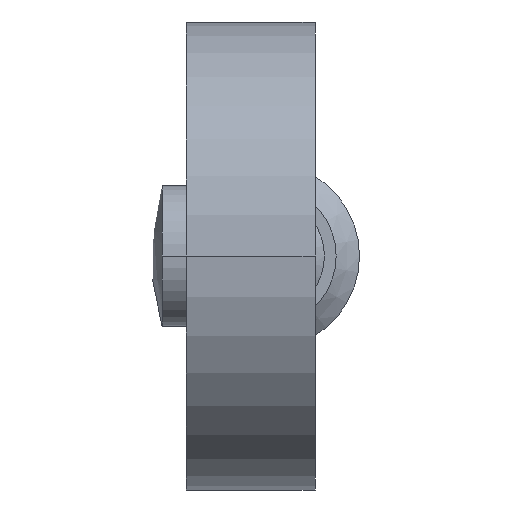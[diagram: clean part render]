
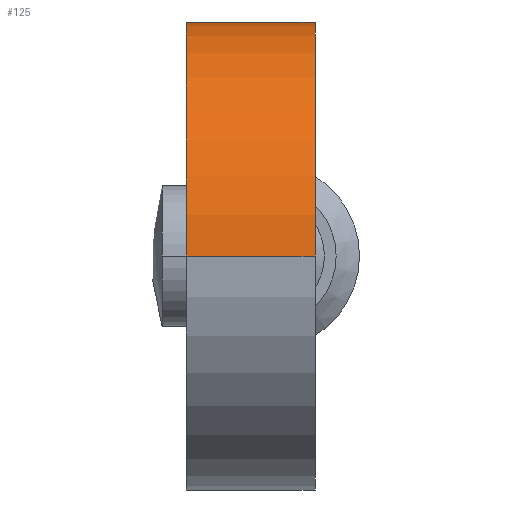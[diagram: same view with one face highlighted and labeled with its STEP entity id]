
A CAD part, left-side view. The second image highlights one B-rep face of the part: STEP entity #125.
In plain terms, the highlighted cylindrical face has radius 10 mm (diameter 20 mm), a partial arc.
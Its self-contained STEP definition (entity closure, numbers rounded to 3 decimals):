
#125=ADVANCED_FACE('',(#175),#176,.T.);
#175=FACE_OUTER_BOUND('',#277,.T.);
#176=CYLINDRICAL_SURFACE('',#278,10.0);
#277=EDGE_LOOP('',(#389,#390,#391,#392,#393,#394,#395));
#278=AXIS2_PLACEMENT_3D('',#396,#397,#398);
#389=ORIENTED_EDGE('',*,*,#724,.F.);
#390=ORIENTED_EDGE('',*,*,#725,.T.);
#391=ORIENTED_EDGE('',*,*,#726,.F.);
#392=ORIENTED_EDGE('',*,*,#727,.F.);
#393=ORIENTED_EDGE('',*,*,#728,.F.);
#394=ORIENTED_EDGE('',*,*,#729,.F.);
#395=ORIENTED_EDGE('',*,*,#730,.F.);
#396=CARTESIAN_POINT('',(0.0,2.75,0.0));
#397=DIRECTION('',(0.0,-1.0,0.0));
#398=DIRECTION('',(1.0,0.0,0.0));
#724=EDGE_CURVE('',#832,#833,#834,.T.);
#725=EDGE_CURVE('',#832,#835,#836,.T.);
#726=EDGE_CURVE('',#837,#835,#838,.T.);
#727=EDGE_CURVE('',#839,#837,#840,.T.);
#728=EDGE_CURVE('',#841,#839,#842,.T.);
#729=EDGE_CURVE('',#843,#841,#844,.T.);
#730=EDGE_CURVE('',#833,#843,#845,.T.);
#832=VERTEX_POINT('',#1001);
#833=VERTEX_POINT('',#1002);
#834=LINE('',#1003,#1004);
#835=VERTEX_POINT('',#1005);
#836=CIRCLE('',#1006,10.0);
#837=VERTEX_POINT('',#1007);
#838=LINE('',#1008,#1009);
#839=VERTEX_POINT('',#1010);
#840=CIRCLE('',#1011,10.0);
#841=VERTEX_POINT('',#1012);
#842=LINE('',#1013,#1014);
#843=VERTEX_POINT('',#1015);
#844=B_SPLINE_CURVE_WITH_KNOTS('',3,(#1016,#1017,#1018,#1019,#1020,#1021,#1022,#1023,#1024,#1025,#1026,#1027),.UNSPECIFIED.,.F.,.F.,(4,2,2,2,2,4),(0.32,0.332,0.373,0.415,0.456,0.498),.UNSPECIFIED.);
#845=B_SPLINE_CURVE_WITH_KNOTS('',3,(#1028,#1029,#1030,#1031,#1032,#1033,#1034,#1035,#1036,#1037),.UNSPECIFIED.,.F.,.F.,(4,2,2,2,4),(0.166,0.207,0.249,0.29,0.32),.UNSPECIFIED.);
#1001=CARTESIAN_POINT('',(10.0,5.5,0.0));
#1002=CARTESIAN_POINT('',(10.0,3.2,0.));
#1003=CARTESIAN_POINT('',(10.0,2.75,0.));
#1004=VECTOR('',#1234,1.0);
#1005=CARTESIAN_POINT('',(-10.0,5.5,0.));
#1006=AXIS2_PLACEMENT_3D('',#1235,#1236,#1237);
#1007=CARTESIAN_POINT('',(-10.0,0.0,0.));
#1008=CARTESIAN_POINT('',(-10.0,2.75,0.));
#1009=VECTOR('',#1238,1.0);
#1010=CARTESIAN_POINT('',(10.0,0.0,0.0));
#1011=AXIS2_PLACEMENT_3D('',#1239,#1240,#1241);
#1012=CARTESIAN_POINT('',(10.0,1.,0.));
#1013=CARTESIAN_POINT('',(10.0,2.75,0.));
#1014=VECTOR('',#1242,1.0);
#1015=CARTESIAN_POINT('',(9.94,2.217,1.094));
#1016=CARTESIAN_POINT('',(9.94,2.217,1.094));
#1017=CARTESIAN_POINT('',(9.94,2.178,1.098));
#1018=CARTESIAN_POINT('',(9.939,2.139,1.1));
#1019=CARTESIAN_POINT('',(9.939,1.962,1.1));
#1020=CARTESIAN_POINT('',(9.942,1.814,1.072));
#1021=CARTESIAN_POINT('',(9.954,1.543,0.96));
#1022=CARTESIAN_POINT('',(9.962,1.42,0.875));
#1023=CARTESIAN_POINT('',(9.977,1.225,0.68));
#1024=CARTESIAN_POINT('',(9.985,1.14,0.557));
#1025=CARTESIAN_POINT('',(9.997,1.028,0.286));
#1026=CARTESIAN_POINT('',(10.0,1.,0.138));
#1027=CARTESIAN_POINT('',(10.0,1.,0.));
#1028=CARTESIAN_POINT('',(10.0,3.2,0.));
#1029=CARTESIAN_POINT('',(10.0,3.2,0.138));
#1030=CARTESIAN_POINT('',(9.997,3.172,0.286));
#1031=CARTESIAN_POINT('',(9.985,3.06,0.557));
#1032=CARTESIAN_POINT('',(9.977,2.975,0.68));
#1033=CARTESIAN_POINT('',(9.962,2.78,0.875));
#1034=CARTESIAN_POINT('',(9.954,2.657,0.96));
#1035=CARTESIAN_POINT('',(9.944,2.423,1.057));
#1036=CARTESIAN_POINT('',(9.941,2.319,1.083));
#1037=CARTESIAN_POINT('',(9.94,2.217,1.094));
#1234=DIRECTION('',(0.0,-1.0,0.0));
#1235=CARTESIAN_POINT('',(0.0,5.5,0.0));
#1236=DIRECTION('',(0.0,-1.0,0.0));
#1237=DIRECTION('',(1.0,0.0,0.0));
#1238=DIRECTION('',(0.0,1.0,0.0));
#1239=CARTESIAN_POINT('',(0.0,0.0,0.0));
#1240=DIRECTION('',(0.0,-1.0,0.0));
#1241=DIRECTION('',(1.0,0.0,0.0));
#1242=DIRECTION('',(0.0,-1.0,0.0));
